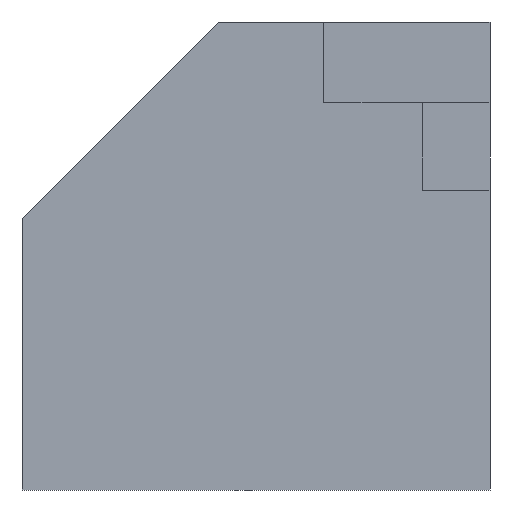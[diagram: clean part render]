
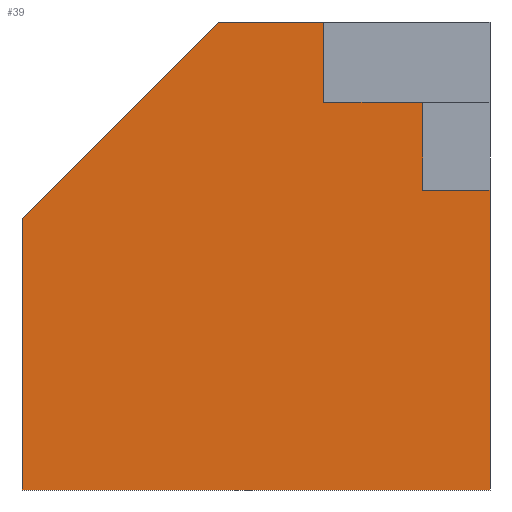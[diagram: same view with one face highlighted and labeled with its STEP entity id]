
A CAD part, front view. The second image highlights one B-rep face of the part: STEP entity #39.
In plain terms, the highlighted planar face has unit normal (0, -1, 0).
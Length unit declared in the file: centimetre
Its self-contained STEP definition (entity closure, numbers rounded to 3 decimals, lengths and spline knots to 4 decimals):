
#7 = VERTEX_POINT ( 'NONE', #193 ) ;
#10 = EDGE_CURVE ( 'NONE', #439, #7, #120, .T. ) ;
#13 = EDGE_CURVE ( 'NONE', #7, #219, #300, .T. ) ;
#35 = ORIENTED_EDGE ( 'NONE', *, *, #10, .T. ) ;
#39 = ADVANCED_FACE ( 'NONE', ( #45 ), #307, .F. ) ;
#42 = ORIENTED_EDGE ( 'NONE', *, *, #13, .T. ) ;
#45 = FACE_OUTER_BOUND ( 'NONE', #359, .T. ) ;
#47 = CARTESIAN_POINT ( 'NONE',  ( 1000., 0., 1000. ) ) ;
#64 = EDGE_CURVE ( 'NONE', #262, #219, #372, .T. ) ;
#99 = DIRECTION ( 'NONE',  ( 1., 0., 0. ) ) ;
#101 = CARTESIAN_POINT ( 'NONE',  ( 1000., 0., 640.2781 ) ) ;
#104 = VECTOR ( 'NONE', #309, 100. ) ;
#109 = CARTESIAN_POINT ( 'NONE',  ( 0., 0., 580.7403 ) ) ;
#110 = VERTEX_POINT ( 'NONE', #344 ) ;
#111 = EDGE_CURVE ( 'NONE', #274, #439, #196, .T. ) ;
#116 = CARTESIAN_POINT ( 'NONE',  ( 0., 0., 1000. ) ) ;
#120 = LINE ( 'NONE', #116, #423 ) ;
#122 = DIRECTION ( 'NONE',  ( 0., 0., -1. ) ) ;
#139 = DIRECTION ( 'NONE',  ( 1., 0., 0. ) ) ;
#140 = VERTEX_POINT ( 'NONE', #378 ) ;
#141 = DIRECTION ( 'NONE',  ( 1., 0., 0. ) ) ;
#157 = DIRECTION ( 'NONE',  ( 0., 0., 1. ) ) ;
#176 = ORIENTED_EDGE ( 'NONE', *, *, #64, .F. ) ;
#190 = EDGE_CURVE ( 'NONE', #110, #427, #276, .T. ) ;
#192 = ORIENTED_EDGE ( 'NONE', *, *, #252, .F. ) ;
#193 = CARTESIAN_POINT ( 'NONE',  ( 0., 0., 0. ) ) ;
#196 = LINE ( 'NONE', #452, #389 ) ;
#212 = LINE ( 'NONE', #248, #412 ) ;
#219 = VERTEX_POINT ( 'NONE', #345 ) ;
#220 = VECTOR ( 'NONE', #402, 100. ) ;
#228 = ORIENTED_EDGE ( 'NONE', *, *, #275, .F. ) ;
#239 = DIRECTION ( 'NONE',  ( 0., 0., -1. ) ) ;
#248 = CARTESIAN_POINT ( 'NONE',  ( 644.6252, 0., 828.1524 ) ) ;
#251 = LINE ( 'NONE', #287, #355 ) ;
#252 = EDGE_CURVE ( 'NONE', #274, #254, #388, .T. ) ;
#254 = VERTEX_POINT ( 'NONE', #357 ) ;
#262 = VERTEX_POINT ( 'NONE', #101 ) ;
#268 = EDGE_CURVE ( 'NONE', #254, #140, #212, .T. ) ;
#271 = CARTESIAN_POINT ( 'NONE',  ( 0., 0., 1000. ) ) ;
#274 = VERTEX_POINT ( 'NONE', #354 ) ;
#275 = EDGE_CURVE ( 'NONE', #140, #110, #251, .T. ) ;
#276 = LINE ( 'NONE', #411, #340 ) ;
#287 = CARTESIAN_POINT ( 'NONE',  ( 644.6252, 0., 828.1524 ) ) ;
#288 = CARTESIAN_POINT ( 'NONE',  ( 0., 0., 1000. ) ) ;
#300 = LINE ( 'NONE', #341, #220 ) ;
#307 = PLANE ( 'NONE',  #315 ) ;
#309 = DIRECTION ( 'NONE',  ( 0., 0., -1. ) ) ;
#315 = AXIS2_PLACEMENT_3D ( 'NONE', #271, #407, #157 ) ;
#320 = LINE ( 'NONE', #456, #360 ) ;
#331 = VECTOR ( 'NONE', #139, 100. ) ;
#339 = EDGE_CURVE ( 'NONE', #427, #262, #320, .T. ) ;
#340 = VECTOR ( 'NONE', #239, 100. ) ;
#341 = CARTESIAN_POINT ( 'NONE',  ( 0., 0., 0. ) ) ;
#344 = CARTESIAN_POINT ( 'NONE',  ( 855.7875, 0., 828.1524 ) ) ;
#345 = CARTESIAN_POINT ( 'NONE',  ( 1000., 0., 0. ) ) ;
#354 = CARTESIAN_POINT ( 'NONE',  ( 419.2597, 0., 1000. ) ) ;
#355 = VECTOR ( 'NONE', #141, 100. ) ;
#357 = CARTESIAN_POINT ( 'NONE',  ( 644.6252, 0., 1000. ) ) ;
#359 = EDGE_LOOP ( 'NONE', ( #228, #447, #192, #465, #35, #42, #176, #394, #430 ) ) ;
#360 = VECTOR ( 'NONE', #99, 100. ) ;
#372 = LINE ( 'NONE', #47, #104 ) ;
#378 = CARTESIAN_POINT ( 'NONE',  ( 644.6252, 0., 828.1524 ) ) ;
#388 = LINE ( 'NONE', #288, #331 ) ;
#389 = VECTOR ( 'NONE', #446, 100. ) ;
#394 = ORIENTED_EDGE ( 'NONE', *, *, #339, .F. ) ;
#402 = DIRECTION ( 'NONE',  ( 1., 0., 0. ) ) ;
#407 = DIRECTION ( 'NONE',  ( 0., 1., 0. ) ) ;
#411 = CARTESIAN_POINT ( 'NONE',  ( 855.7875, 0., 640.2781 ) ) ;
#412 = VECTOR ( 'NONE', #425, 100. ) ;
#423 = VECTOR ( 'NONE', #122, 100. ) ;
#425 = DIRECTION ( 'NONE',  ( 0., 0., -1. ) ) ;
#427 = VERTEX_POINT ( 'NONE', #440 ) ;
#430 = ORIENTED_EDGE ( 'NONE', *, *, #190, .F. ) ;
#439 = VERTEX_POINT ( 'NONE', #109 ) ;
#440 = CARTESIAN_POINT ( 'NONE',  ( 855.7875, 0., 640.2781 ) ) ;
#446 = DIRECTION ( 'NONE',  ( -0.707, 0., -0.707 ) ) ;
#447 = ORIENTED_EDGE ( 'NONE', *, *, #268, .F. ) ;
#452 = CARTESIAN_POINT ( 'NONE',  ( 419.2597, 0., 1000. ) ) ;
#456 = CARTESIAN_POINT ( 'NONE',  ( 855.7875, 0., 640.2781 ) ) ;
#465 = ORIENTED_EDGE ( 'NONE', *, *, #111, .T. ) ;
